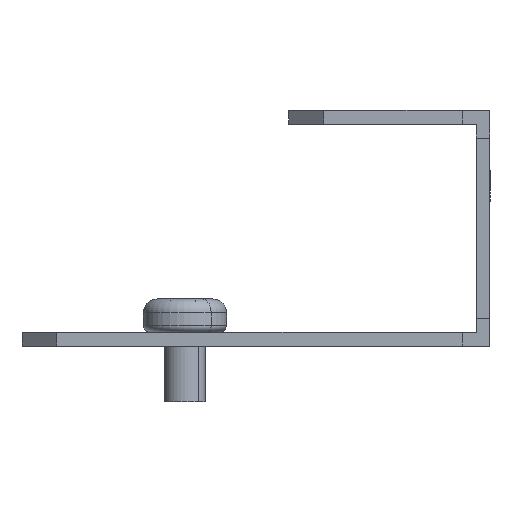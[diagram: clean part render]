
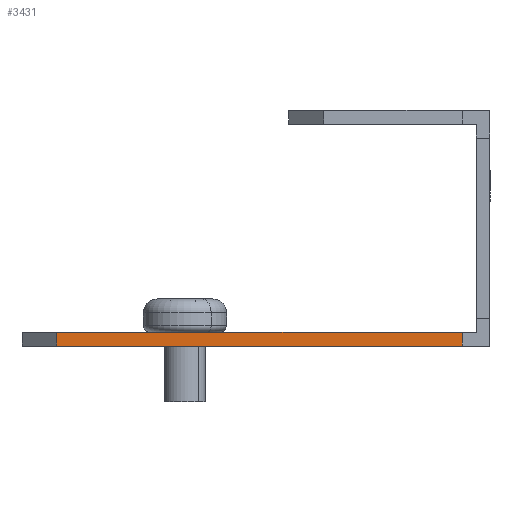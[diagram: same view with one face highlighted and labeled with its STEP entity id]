
A CAD part, front view. The second image highlights one B-rep face of the part: STEP entity #3431.
In plain terms, the highlighted planar face has unit normal (0, -1, 0).
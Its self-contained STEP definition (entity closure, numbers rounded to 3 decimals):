
#54 = ORIENTED_EDGE ( 'NONE', *, *, #5999, .T. ) ;
#244 = AXIS2_PLACEMENT_3D ( 'NONE', #5528, #2652, #1414 ) ;
#406 = VERTEX_POINT ( 'NONE', #7217 ) ;
#823 = VERTEX_POINT ( 'NONE', #6352 ) ;
#831 = VECTOR ( 'NONE', #5868, 1000. ) ;
#865 = ORIENTED_EDGE ( 'NONE', *, *, #3444, .F. ) ;
#1025 = DIRECTION ( 'NONE',  ( 0., 0., 1. ) ) ;
#1375 = CARTESIAN_POINT ( 'NONE',  ( -47., -268.75, -15. ) ) ;
#1414 = DIRECTION ( 'NONE',  ( 0., 0., -1. ) ) ;
#1996 = DIRECTION ( 'NONE',  ( 1., 0., 0. ) ) ;
#2104 = CARTESIAN_POINT ( 'NONE',  ( 11.5, -268.75, -17. ) ) ;
#2322 = LINE ( 'NONE', #4647, #2781 ) ;
#2323 = EDGE_CURVE ( 'NONE', #5187, #6410, #4049, .T. ) ;
#2575 = LINE ( 'NONE', #1375, #2810 ) ;
#2652 = DIRECTION ( 'NONE',  ( 0., -1., 0. ) ) ;
#2781 = VECTOR ( 'NONE', #6950, 1000. ) ;
#2810 = VECTOR ( 'NONE', #1996, 1000. ) ;
#3431 = ADVANCED_FACE ( 'NONE', ( #7165 ), #5612, .T. ) ;
#3444 = EDGE_CURVE ( 'NONE', #823, #406, #2575, .T. ) ;
#3521 = VECTOR ( 'NONE', #1025, 1000. ) ;
#3563 = CARTESIAN_POINT ( 'NONE',  ( -47., -268.75, -17. ) ) ;
#3840 = EDGE_LOOP ( 'NONE', ( #865, #6308, #5226, #54 ) ) ;
#4049 = LINE ( 'NONE', #3563, #831 ) ;
#4472 = CARTESIAN_POINT ( 'NONE',  ( -47., -268.75, -17. ) ) ;
#4647 = CARTESIAN_POINT ( 'NONE',  ( 11.5, -268.75, -17. ) ) ;
#5187 = VERTEX_POINT ( 'NONE', #4472 ) ;
#5226 = ORIENTED_EDGE ( 'NONE', *, *, #2323, .T. ) ;
#5528 = CARTESIAN_POINT ( 'NONE',  ( -47., -268.75, -17. ) ) ;
#5612 = PLANE ( 'NONE',  #244 ) ;
#5868 = DIRECTION ( 'NONE',  ( 1., 0., 0. ) ) ;
#5999 = EDGE_CURVE ( 'NONE', #6410, #406, #2322, .T. ) ;
#6214 = LINE ( 'NONE', #6324, #3521 ) ;
#6307 = EDGE_CURVE ( 'NONE', #5187, #823, #6214, .T. ) ;
#6308 = ORIENTED_EDGE ( 'NONE', *, *, #6307, .F. ) ;
#6324 = CARTESIAN_POINT ( 'NONE',  ( -47., -268.75, -17. ) ) ;
#6352 = CARTESIAN_POINT ( 'NONE',  ( -47., -268.75, -15. ) ) ;
#6410 = VERTEX_POINT ( 'NONE', #2104 ) ;
#6950 = DIRECTION ( 'NONE',  ( 0., 0., 1. ) ) ;
#7165 = FACE_OUTER_BOUND ( 'NONE', #3840, .T. ) ;
#7217 = CARTESIAN_POINT ( 'NONE',  ( 11.5, -268.75, -15. ) ) ;
